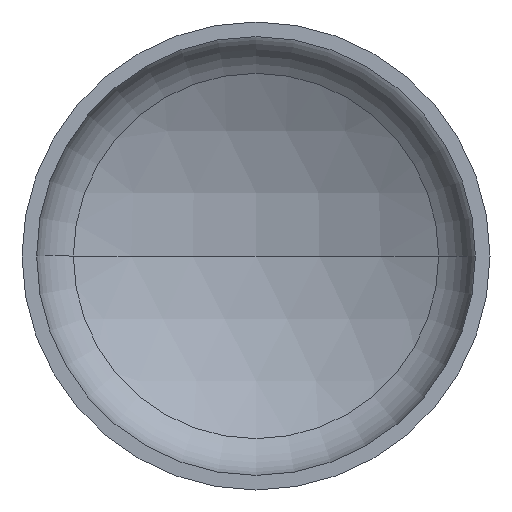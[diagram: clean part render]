
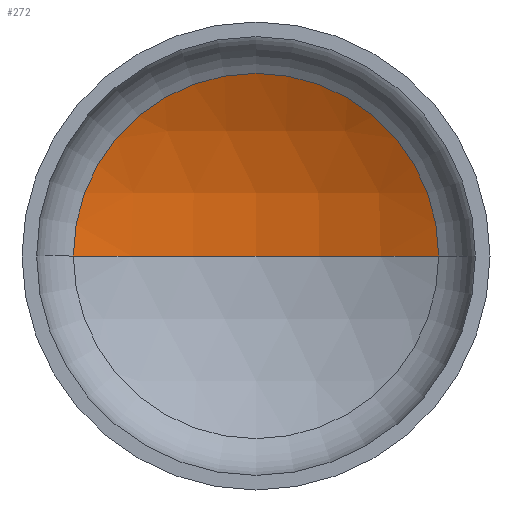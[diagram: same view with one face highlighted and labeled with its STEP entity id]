
A CAD part, front view. The second image highlights one B-rep face of the part: STEP entity #272.
In plain terms, the highlighted spherical face has radius 2560 mm.
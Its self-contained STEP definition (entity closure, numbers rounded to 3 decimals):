
#12 = AXIS2_PLACEMENT_3D ( 'NONE', #120, #150, #152 ) ;
#16 = CARTESIAN_POINT ( 'NONE',  ( 0., -1706.876, 0. ) ) ;
#21 = EDGE_LOOP ( 'NONE', ( #131, #101, #91 ) ) ;
#24 = AXIS2_PLACEMENT_3D ( 'NONE', #16, #276, #227 ) ;
#28 = AXIS2_PLACEMENT_3D ( 'NONE', #158, #166, #163 ) ;
#31 = VERTEX_POINT ( 'NONE', #368 ) ;
#43 = AXIS2_PLACEMENT_3D ( 'NONE', #238, #290, #293 ) ;
#91 = ORIENTED_EDGE ( 'NONE', *, *, #361, .T. ) ;
#101 = ORIENTED_EDGE ( 'NONE', *, *, #338, .T. ) ;
#108 = CIRCLE ( 'NONE', #12, 1249.082 ) ;
#110 = VERTEX_POINT ( 'NONE', #382 ) ;
#120 = CARTESIAN_POINT ( 'NONE',  ( 0., 527.715, 0. ) ) ;
#127 = VERTEX_POINT ( 'NONE', #384 ) ;
#131 = ORIENTED_EDGE ( 'NONE', *, *, #341, .F. ) ;
#150 = DIRECTION ( 'NONE',  ( 0., -1., 0. ) ) ;
#152 = DIRECTION ( 'NONE',  ( 1., 0., 0. ) ) ;
#158 = CARTESIAN_POINT ( 'NONE',  ( 0., -1706.876, 0. ) ) ;
#163 = DIRECTION ( 'NONE',  ( -1., 0., 0. ) ) ;
#166 = DIRECTION ( 'NONE',  ( 0., 0., -1. ) ) ;
#227 = DIRECTION ( 'NONE',  ( 1., 0., 0. ) ) ;
#238 = CARTESIAN_POINT ( 'NONE',  ( 0., -1706.876, 0. ) ) ;
#262 = CIRCLE ( 'NONE', #28, 2560. ) ;
#272 = ADVANCED_FACE ( 'NONE', ( #274 ), #334, .F. ) ;
#274 = FACE_OUTER_BOUND ( 'NONE', #21, .T. ) ;
#276 = DIRECTION ( 'NONE',  ( 0., 0., 1. ) ) ;
#290 = DIRECTION ( 'NONE',  ( 0., 0., -1. ) ) ;
#293 = DIRECTION ( 'NONE',  ( -1., 0., 0. ) ) ;
#334 = SPHERICAL_SURFACE ( 'NONE', #43, 2560. ) ;
#338 = EDGE_CURVE ( 'NONE', #110, #127, #262, .T. ) ;
#341 = EDGE_CURVE ( 'NONE', #110, #31, #396, .T. ) ;
#361 = EDGE_CURVE ( 'NONE', #127, #31, #108, .T. ) ;
#368 = CARTESIAN_POINT ( 'NONE',  ( -1249.082, 527.715, 0. ) ) ;
#382 = CARTESIAN_POINT ( 'NONE',  ( 0., 853.124, 0. ) ) ;
#384 = CARTESIAN_POINT ( 'NONE',  ( 1249.082, 527.715, 0. ) ) ;
#396 = CIRCLE ( 'NONE', #24, 2560. ) ;
